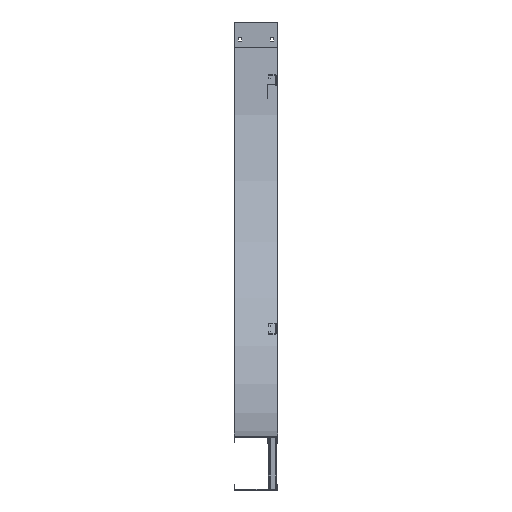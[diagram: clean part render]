
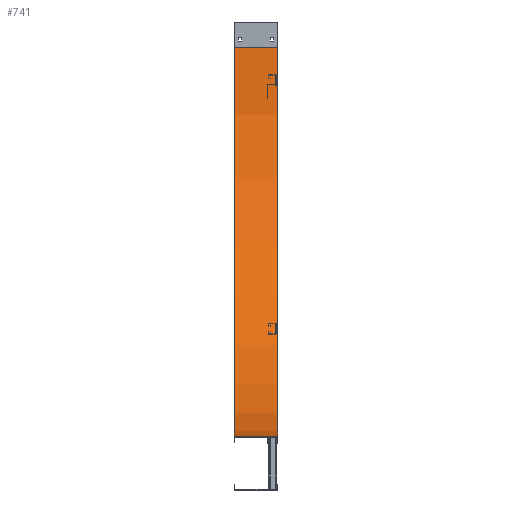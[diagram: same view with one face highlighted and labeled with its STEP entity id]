
A CAD part, left-side view. The second image highlights one B-rep face of the part: STEP entity #741.
In plain terms, the highlighted cylindrical face has radius 1143 mm (diameter 2286 mm), a partial arc.
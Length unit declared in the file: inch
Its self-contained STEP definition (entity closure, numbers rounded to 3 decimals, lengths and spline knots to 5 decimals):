
#156=CARTESIAN_POINT('',(0.,-45.,3.));
#157=DIRECTION('',(1.,0.,0.));
#158=DIRECTION('',(0.,1.,0.));
#159=AXIS2_PLACEMENT_3D('',#156,#157,#158);
#165=DIRECTION('',(1.,0.,0.));
#166=VECTOR('',#165,5.08);
#167=CARTESIAN_POINT('',(-5.08,0.,3.));
#168=LINE('',#167,#166);
#169=CARTESIAN_POINT('',(-5.08,-45.,3.));
#170=DIRECTION('',(1.,0.,0.));
#171=DIRECTION('',(0.,1.,0.));
#172=AXIS2_PLACEMENT_3D('',#169,#170,#171);
#174=DIRECTION('',(1.,0.,0.));
#175=VECTOR('',#174,5.08);
#176=CARTESIAN_POINT('',(-5.08,-45.,48.));
#177=LINE('',#176,#175);
#409=CARTESIAN_POINT('',(-5.08,0.,3.));
#410=CARTESIAN_POINT('',(0.,0.,3.));
#411=VERTEX_POINT('',#409);
#412=VERTEX_POINT('',#410);
#425=CARTESIAN_POINT('',(-5.08,-45.,48.));
#426=CARTESIAN_POINT('',(0.,-45.,48.));
#427=VERTEX_POINT('',#425);
#428=VERTEX_POINT('',#426);
#729=CARTESIAN_POINT('',(-1.,-45.,3.));
#730=DIRECTION('',(1.,0.,0.));
#731=DIRECTION('',(0.,-1.,0.));
#732=AXIS2_PLACEMENT_3D('',#729,#730,#731);
#733=CYLINDRICAL_SURFACE('',#732,45.);
#734=ORIENTED_EDGE('',*,*,#553,.F.);
#735=ORIENTED_EDGE('',*,*,#596,.T.);
#737=ORIENTED_EDGE('',*,*,#736,.T.);
#738=ORIENTED_EDGE('',*,*,#715,.F.);
#739=EDGE_LOOP('',(#734,#735,#737,#738));
#740=FACE_OUTER_BOUND('',#739,.F.);
#741=ADVANCED_FACE('',(#740),#733,.F.);
#160=CIRCLE('',#159,45.);
#173=CIRCLE('',#172,45.);
#553=EDGE_CURVE('',#411,#412,#168,.T.);
#596=EDGE_CURVE('',#411,#427,#173,.T.);
#715=EDGE_CURVE('',#412,#428,#160,.T.);
#736=EDGE_CURVE('',#427,#428,#177,.T.);
